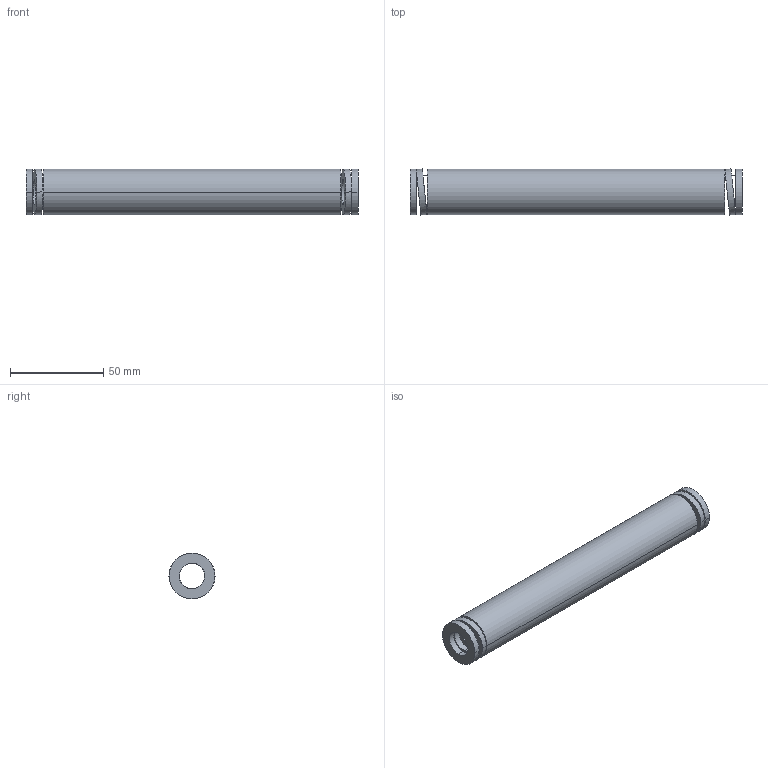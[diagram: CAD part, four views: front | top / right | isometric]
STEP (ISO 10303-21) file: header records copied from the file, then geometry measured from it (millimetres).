
FILE_DESCRIPTION(('CATIA V5 STEP Exchange'),'2;1');
FILE_NAME('C:\Users\Utente\Desktop\IO LAVORO\3D X SITO CF\X SITO\3D files 392B\392-B25-178.stp','2021-08-13T07:42:07+00:00',('none'),('none'),'CATIA Version 5 Release 20 GA (IN-10)','CATIA V5 STEP AP203','none');
FILE_SCHEMA(('CONFIG_CONTROL_DESIGN'));
Length unit declared in the file: millimetre
Products named in the file (1): 392-B25-178
Bounding box: 178 x 24.71 x 24.5 mm (x, y, z)
Volume: 55979.6 mm3; surface area: 23976.7 mm2
Topology: 1 solids, 1 shells, 38 faces, 92 edges, 64 vertices
Faces by surface type: cylinder 28, plane 10
Entity records: 1602 total; most frequent: CARTESIAN_POINT 719, ORIENTED_EDGE 184, DIRECTION 126, EDGE_CURVE 92, VERTEX_POINT 64, AXIS2_PLACEMENT_3D 61, EDGE_LOOP 56, B_SPLINE_CURVE_WITH_KNOTS 42
